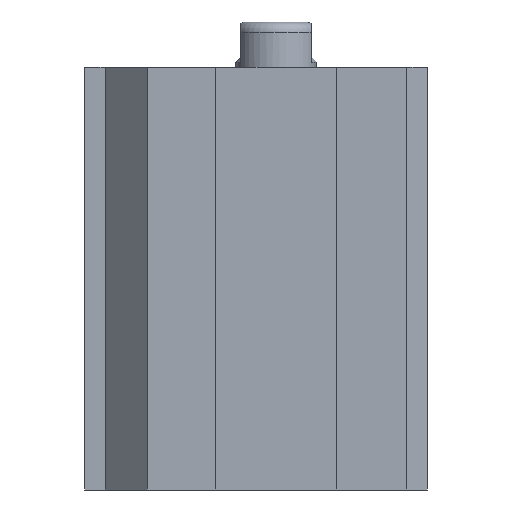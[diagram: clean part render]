
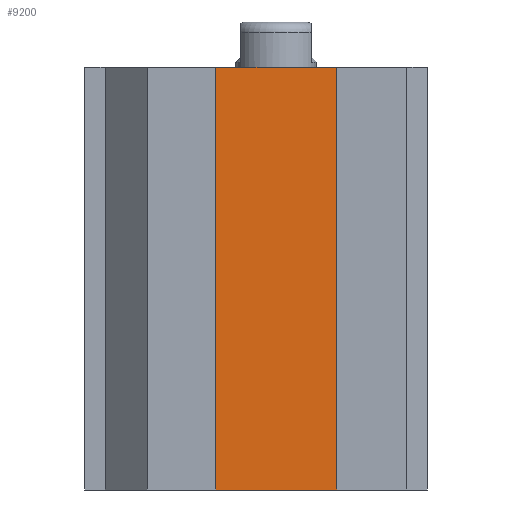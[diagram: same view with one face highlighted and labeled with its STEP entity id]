
A CAD part, left-side view. The second image highlights one B-rep face of the part: STEP entity #9200.
In plain terms, the highlighted planar face has unit normal (-1, 0, 0).
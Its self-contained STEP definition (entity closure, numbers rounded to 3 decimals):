
#2930 = CARTESIAN_POINT ( 'NONE',  ( -10., -6., 42. ) ) ;
#2931 = CARTESIAN_POINT ( 'NONE',  ( -10., 6., 42. ) ) ;
#2932 = DIRECTION ( 'NONE',  ( 0., -1., 0. ) ) ;
#2933 = VECTOR ( 'NONE', #2932, 1000. ) ;
#2934 = CARTESIAN_POINT ( 'NONE',  ( -10., -6., 42. ) ) ;
#2935 = LINE ( 'NONE', #2934, #2933 ) ;
#3005 = CARTESIAN_POINT ( 'NONE',  ( -10., -6., 0. ) ) ;
#3331 = CARTESIAN_POINT ( 'NONE',  ( -10., 6., 0. ) ) ;
#3332 = DIRECTION ( 'NONE',  ( 0., -1., 0. ) ) ;
#3333 = VECTOR ( 'NONE', #3332, 1000. ) ;
#3334 = CARTESIAN_POINT ( 'NONE',  ( -10., -6., 0. ) ) ;
#3335 = LINE ( 'NONE', #3334, #3333 ) ;
#3661 = DIRECTION ( 'NONE',  ( 0., 0., -1. ) ) ;
#3662 = VECTOR ( 'NONE', #3661, 1000. ) ;
#3663 = CARTESIAN_POINT ( 'NONE',  ( -10., 6., 42. ) ) ;
#3664 = LINE ( 'NONE', #3663, #3662 ) ;
#3690 = DIRECTION ( 'NONE',  ( 0., 1., 0. ) ) ;
#3691 = DIRECTION ( 'NONE',  ( 1., 0., 0. ) ) ;
#3692 = CARTESIAN_POINT ( 'NONE',  ( -10., -6., 42. ) ) ;
#3693 = AXIS2_PLACEMENT_3D ( 'NONE', #3692, #3691, #3690 ) ;
#3694 = PLANE ( 'NONE',  #3693 ) ;
#3695 = FACE_OUTER_BOUND ( 'NONE', #9125, .T. ) ;
#4315 = DIRECTION ( 'NONE',  ( 0., 0., -1. ) ) ;
#4316 = VECTOR ( 'NONE', #4315, 1000. ) ;
#4317 = CARTESIAN_POINT ( 'NONE',  ( -10., -6., 42. ) ) ;
#4318 = LINE ( 'NONE', #4317, #4316 ) ;
#8637 = EDGE_CURVE ( 'NONE', #8639, #8640, #2935, .T. ) ;
#8639 = VERTEX_POINT ( 'NONE', #2931 ) ;
#8640 = VERTEX_POINT ( 'NONE', #2930 ) ;
#8661 = VERTEX_POINT ( 'NONE', #3005 ) ;
#8852 = EDGE_CURVE ( 'NONE', #8853, #8661, #3335, .T. ) ;
#8853 = VERTEX_POINT ( 'NONE', #3331 ) ;
#9125 = EDGE_LOOP ( 'NONE', ( #9201, #9202, #9218, #9219 ) ) ;
#9200 = ADVANCED_FACE ( 'NONE', ( #3695 ), #3694, .F. ) ;
#9201 = ORIENTED_EDGE ( 'NONE', *, *, #8852, .T. ) ;
#9202 = ORIENTED_EDGE ( 'NONE', *, *, #9300, .F. ) ;
#9218 = ORIENTED_EDGE ( 'NONE', *, *, #8637, .F. ) ;
#9219 = ORIENTED_EDGE ( 'NONE', *, *, #9220, .T. ) ;
#9220 = EDGE_CURVE ( 'NONE', #8639, #8853, #3664, .T. ) ;
#9300 = EDGE_CURVE ( 'NONE', #8640, #8661, #4318, .T. ) ;
